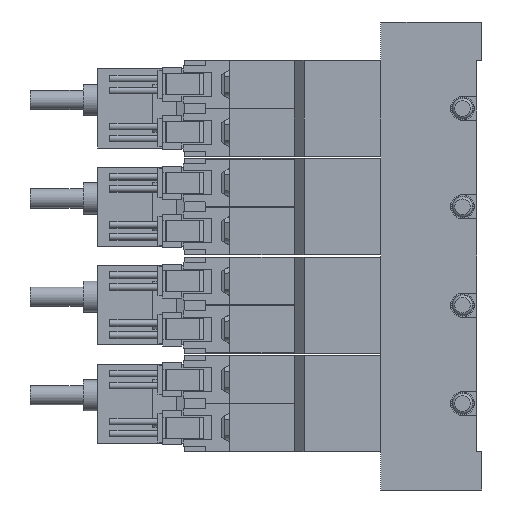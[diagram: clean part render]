
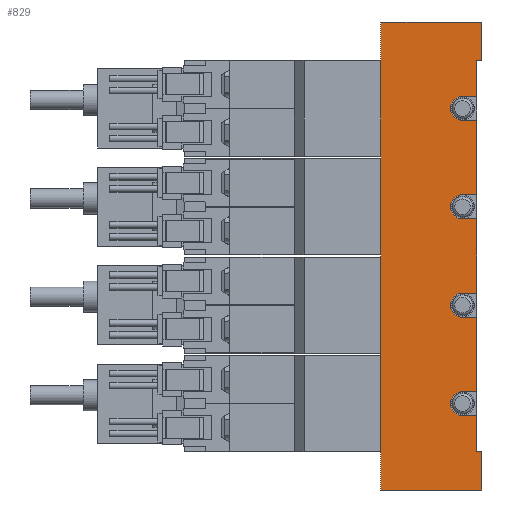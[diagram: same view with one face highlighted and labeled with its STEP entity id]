
A CAD part, left-side view. The second image highlights one B-rep face of the part: STEP entity #829.
In plain terms, the highlighted planar face has unit normal (-1, 0, 0) as drawn and (1, 0, 0) by its records, which use the part's own axes.
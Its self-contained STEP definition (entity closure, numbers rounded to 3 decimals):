
#829=ADVANCED_FACE('',(#1765),#1766,.F.);
#1765=FACE_OUTER_BOUND('',#2828,.T.);
#1766=PLANE('',#2829);
#2828=EDGE_LOOP('',(#6202,#6203,#6204,#6205,#6206,#6207,#6208,#6209,#6210,#6211,#6212,#6213,#6214,#6215,#6216,#6217,#6218,#6219,#6220,#6221,#6222,#6223,#6224,#6225));
#2829=AXIS2_PLACEMENT_3D('',#6226,#6227,#6228);
#6202=ORIENTED_EDGE('',*,*,#7685,.T.);
#6203=ORIENTED_EDGE('',*,*,#7686,.T.);
#6204=ORIENTED_EDGE('',*,*,#7687,.F.);
#6205=ORIENTED_EDGE('',*,*,#7688,.F.);
#6206=ORIENTED_EDGE('',*,*,#7689,.T.);
#6207=ORIENTED_EDGE('',*,*,#7690,.T.);
#6208=ORIENTED_EDGE('',*,*,#7675,.T.);
#6209=ORIENTED_EDGE('',*,*,#7656,.F.);
#6210=ORIENTED_EDGE('',*,*,#7691,.F.);
#6211=ORIENTED_EDGE('',*,*,#7692,.F.);
#6212=ORIENTED_EDGE('',*,*,#7673,.T.);
#6213=ORIENTED_EDGE('',*,*,#7693,.F.);
#6214=ORIENTED_EDGE('',*,*,#7694,.F.);
#6215=ORIENTED_EDGE('',*,*,#7695,.F.);
#6216=ORIENTED_EDGE('',*,*,#7669,.T.);
#6217=ORIENTED_EDGE('',*,*,#7696,.F.);
#6218=ORIENTED_EDGE('',*,*,#7697,.F.);
#6219=ORIENTED_EDGE('',*,*,#7636,.F.);
#6220=ORIENTED_EDGE('',*,*,#7666,.T.);
#6221=ORIENTED_EDGE('',*,*,#7698,.F.);
#6222=ORIENTED_EDGE('',*,*,#7680,.F.);
#6223=ORIENTED_EDGE('',*,*,#7699,.F.);
#6224=ORIENTED_EDGE('',*,*,#7662,.T.);
#6225=ORIENTED_EDGE('',*,*,#7700,.T.);
#6226=CARTESIAN_POINT('',(17.5,1.0,48.75));
#6227=DIRECTION('',(-1.0,0.0,0.0));
#6228=DIRECTION('',(0.0,0.0,1.0));
#7636=EDGE_CURVE('',#9425,#9426,#9427,.T.);
#7656=EDGE_CURVE('',#9462,#9463,#9464,.T.);
#7662=EDGE_CURVE('',#9474,#9471,#9475,.T.);
#7666=EDGE_CURVE('',#9425,#9480,#9482,.T.);
#7669=EDGE_CURVE('',#9487,#9485,#9488,.T.);
#7673=EDGE_CURVE('',#9495,#9493,#9496,.T.);
#7675=EDGE_CURVE('',#9498,#9463,#9499,.T.);
#7680=EDGE_CURVE('',#9506,#9508,#9509,.T.);
#7685=EDGE_CURVE('',#9517,#9518,#9519,.T.);
#7686=EDGE_CURVE('',#9518,#9520,#9521,.T.);
#7687=EDGE_CURVE('',#9522,#9520,#9523,.T.);
#7688=EDGE_CURVE('',#9524,#9522,#9525,.T.);
#7689=EDGE_CURVE('',#9524,#9526,#9527,.T.);
#7690=EDGE_CURVE('',#9526,#9498,#9528,.T.);
#7691=EDGE_CURVE('',#9529,#9462,#9530,.T.);
#7692=EDGE_CURVE('',#9495,#9529,#9531,.T.);
#7693=EDGE_CURVE('',#9532,#9493,#9533,.T.);
#7694=EDGE_CURVE('',#9534,#9532,#9535,.T.);
#7695=EDGE_CURVE('',#9487,#9534,#9536,.T.);
#7696=EDGE_CURVE('',#9537,#9485,#9538,.T.);
#7697=EDGE_CURVE('',#9426,#9537,#9539,.T.);
#7698=EDGE_CURVE('',#9508,#9480,#9540,.T.);
#7699=EDGE_CURVE('',#9474,#9506,#9541,.T.);
#7700=EDGE_CURVE('',#9471,#9517,#9542,.T.);
#9425=VERTEX_POINT('',#12352);
#9426=VERTEX_POINT('',#12353);
#9427=LINE('',#12354,#12355);
#9462=VERTEX_POINT('',#12398);
#9463=VERTEX_POINT('',#12399);
#9464=LINE('',#12400,#12401);
#9471=VERTEX_POINT('',#12410);
#9474=VERTEX_POINT('',#12414);
#9475=LINE('',#12415,#12416);
#9480=VERTEX_POINT('',#12423);
#9482=LINE('',#12426,#12427);
#9485=VERTEX_POINT('',#12431);
#9487=VERTEX_POINT('',#12434);
#9488=LINE('',#12435,#12436);
#9493=VERTEX_POINT('',#12443);
#9495=VERTEX_POINT('',#12446);
#9496=LINE('',#12447,#12448);
#9498=VERTEX_POINT('',#12451);
#9499=LINE('',#12452,#12453);
#9506=VERTEX_POINT('',#12462);
#9508=VERTEX_POINT('',#12465);
#9509=CIRCLE('',#12466,2.5);
#9517=VERTEX_POINT('',#12475);
#9518=VERTEX_POINT('',#12476);
#9519=LINE('',#12477,#12478);
#9520=VERTEX_POINT('',#12479);
#9521=LINE('',#12480,#12481);
#9522=VERTEX_POINT('',#12482);
#9523=LINE('',#12483,#12484);
#9524=VERTEX_POINT('',#12485);
#9525=LINE('',#12486,#12487);
#9526=VERTEX_POINT('',#12488);
#9527=LINE('',#12489,#12490);
#9528=LINE('',#12491,#12492);
#9529=VERTEX_POINT('',#12493);
#9530=CIRCLE('',#12494,2.5);
#9531=LINE('',#12495,#12496);
#9532=VERTEX_POINT('',#12497);
#9533=LINE('',#12498,#12499);
#9534=VERTEX_POINT('',#12500);
#9535=CIRCLE('',#12501,2.5);
#9536=LINE('',#12502,#12503);
#9537=VERTEX_POINT('',#12504);
#9538=LINE('',#12505,#12506);
#9539=CIRCLE('',#12507,2.5);
#9540=LINE('',#12508,#12509);
#9541=LINE('',#12510,#12511);
#9542=LINE('',#12512,#12513);
#12352=CARTESIAN_POINT('',(17.5,1.0,-12.75));
#12353=CARTESIAN_POINT('',(17.5,4.0,-12.75));
#12354=CARTESIAN_POINT('',(17.5,1.0,-12.75));
#12355=VECTOR('',#14045,1.0);
#12398=CARTESIAN_POINT('',(17.5,4.0,33.25));
#12399=CARTESIAN_POINT('',(17.5,1.0,33.25));
#12400=CARTESIAN_POINT('',(17.5,1.0,33.25));
#12401=VECTOR('',#14084,1.0);
#12410=CARTESIAN_POINT('',(17.5,1.0,-40.75));
#12414=CARTESIAN_POINT('',(17.5,1.0,-33.25));
#12415=CARTESIAN_POINT('',(17.5,1.0,48.75));
#12416=VECTOR('',#14094,1.0);
#12423=CARTESIAN_POINT('',(17.5,1.0,-28.25));
#12426=CARTESIAN_POINT('',(17.5,1.0,48.75));
#12427=VECTOR('',#14098,1.0);
#12431=CARTESIAN_POINT('',(17.5,1.0,-7.75));
#12434=CARTESIAN_POINT('',(17.5,1.0,7.75));
#12435=CARTESIAN_POINT('',(17.5,1.0,48.75));
#12436=VECTOR('',#14101,1.0);
#12443=CARTESIAN_POINT('',(17.5,1.0,12.75));
#12446=CARTESIAN_POINT('',(17.5,1.0,28.25));
#12447=CARTESIAN_POINT('',(17.5,1.0,48.75));
#12448=VECTOR('',#14105,1.0);
#12451=CARTESIAN_POINT('',(17.5,1.0,40.75));
#12452=CARTESIAN_POINT('',(17.5,1.0,48.75));
#12453=VECTOR('',#14107,1.0);
#12462=CARTESIAN_POINT('',(17.5,4.0,-33.25));
#12465=CARTESIAN_POINT('',(17.5,4.0,-28.25));
#12466=AXIS2_PLACEMENT_3D('',#14114,#14115,#14116);
#12475=CARTESIAN_POINT('',(17.5,0.0,-40.75));
#12476=CARTESIAN_POINT('',(17.5,0.0,-48.75));
#12477=CARTESIAN_POINT('',(17.5,0.0,-40.75));
#12478=VECTOR('',#14127,1.0);
#12479=CARTESIAN_POINT('',(17.5,21.0,-48.75));
#12480=CARTESIAN_POINT('',(17.5,1.0,-48.75));
#12481=VECTOR('',#14128,1.0);
#12482=CARTESIAN_POINT('',(17.5,21.0,48.75));
#12483=CARTESIAN_POINT('',(17.5,21.0,48.75));
#12484=VECTOR('',#14129,1.0);
#12485=CARTESIAN_POINT('',(17.5,0.0,48.75));
#12486=CARTESIAN_POINT('',(17.5,1.0,48.75));
#12487=VECTOR('',#14130,1.0);
#12488=CARTESIAN_POINT('',(17.5,0.0,40.75));
#12489=CARTESIAN_POINT('',(17.5,0.0,48.75));
#12490=VECTOR('',#14131,1.0);
#12491=CARTESIAN_POINT('',(17.5,0.0,40.75));
#12492=VECTOR('',#14132,1.0);
#12493=CARTESIAN_POINT('',(17.5,4.0,28.25));
#12494=AXIS2_PLACEMENT_3D('',#14133,#14134,#14135);
#12495=CARTESIAN_POINT('',(17.5,1.0,28.25));
#12496=VECTOR('',#14136,1.0);
#12497=CARTESIAN_POINT('',(17.5,4.0,12.75));
#12498=CARTESIAN_POINT('',(17.5,1.0,12.75));
#12499=VECTOR('',#14137,1.0);
#12500=CARTESIAN_POINT('',(17.5,4.0,7.75));
#12501=AXIS2_PLACEMENT_3D('',#14138,#14139,#14140);
#12502=CARTESIAN_POINT('',(17.5,1.0,7.75));
#12503=VECTOR('',#14141,1.0);
#12504=CARTESIAN_POINT('',(17.5,4.0,-7.75));
#12505=CARTESIAN_POINT('',(17.5,1.0,-7.75));
#12506=VECTOR('',#14142,1.0);
#12507=AXIS2_PLACEMENT_3D('',#14143,#14144,#14145);
#12508=CARTESIAN_POINT('',(17.5,1.0,-28.25));
#12509=VECTOR('',#14146,1.0);
#12510=CARTESIAN_POINT('',(17.5,1.0,-33.25));
#12511=VECTOR('',#14147,1.0);
#12512=CARTESIAN_POINT('',(17.5,4.0,-40.75));
#12513=VECTOR('',#14148,1.0);
#14045=DIRECTION('',(0.0,1.0,0.0));
#14084=DIRECTION('',(0.0,-1.0,0.0));
#14094=DIRECTION('',(0.0,0.0,-1.0));
#14098=DIRECTION('',(0.0,0.0,-1.0));
#14101=DIRECTION('',(0.0,0.0,-1.0));
#14105=DIRECTION('',(0.0,0.0,-1.0));
#14107=DIRECTION('',(0.0,0.0,-1.0));
#14114=CARTESIAN_POINT('',(17.5,4.0,-30.75));
#14115=DIRECTION('',(1.0,0.0,-0.0));
#14116=DIRECTION('',(0.0,0.0,1.0));
#14127=DIRECTION('',(0.0,0.0,-1.0));
#14128=DIRECTION('',(0.0,1.0,0.0));
#14129=DIRECTION('',(0.0,0.0,-1.0));
#14130=DIRECTION('',(0.0,1.0,0.0));
#14131=DIRECTION('',(0.0,0.0,-1.0));
#14132=DIRECTION('',(0.0,1.0,0.0));
#14133=CARTESIAN_POINT('',(17.5,4.0,30.75));
#14134=DIRECTION('',(1.0,0.0,-0.0));
#14135=DIRECTION('',(0.0,0.0,1.0));
#14136=DIRECTION('',(0.0,1.0,0.0));
#14137=DIRECTION('',(0.0,-1.0,0.0));
#14138=CARTESIAN_POINT('',(17.5,4.0,10.25));
#14139=DIRECTION('',(1.0,0.0,-0.0));
#14140=DIRECTION('',(0.0,0.0,1.0));
#14141=DIRECTION('',(0.0,1.0,0.0));
#14142=DIRECTION('',(0.0,-1.0,0.0));
#14143=CARTESIAN_POINT('',(17.5,4.0,-10.25));
#14144=DIRECTION('',(1.0,0.0,-0.0));
#14145=DIRECTION('',(0.0,0.0,1.0));
#14146=DIRECTION('',(0.0,-1.0,0.0));
#14147=DIRECTION('',(0.0,1.0,0.0));
#14148=DIRECTION('',(0.0,-1.0,0.0));
